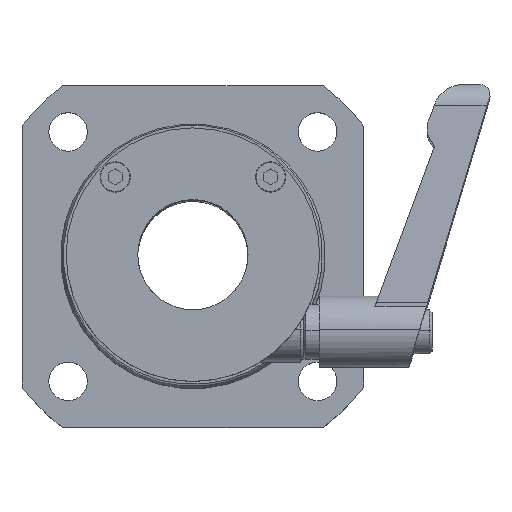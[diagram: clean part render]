
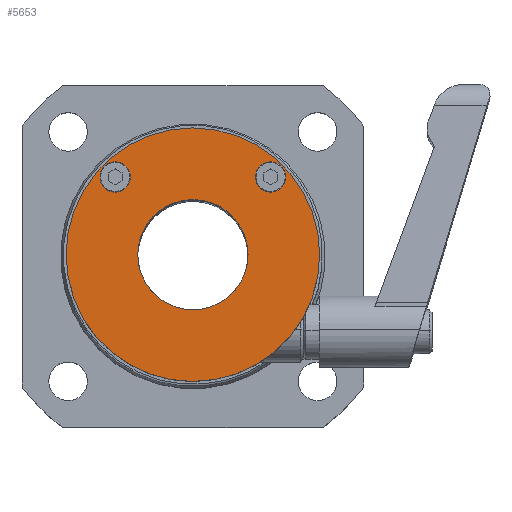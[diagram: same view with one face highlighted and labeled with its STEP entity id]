
A CAD part, top view. The second image highlights one B-rep face of the part: STEP entity #5653.
In plain terms, the highlighted planar face has unit normal (0, 0, 1).
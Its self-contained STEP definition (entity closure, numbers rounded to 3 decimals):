
#347 = AXIS2_PLACEMENT_3D ( 'NONE', #9853, #3593, #9703 ) ;
#446 = ORIENTED_EDGE ( 'NONE', *, *, #6869, .F. ) ;
#681 = EDGE_CURVE ( 'NONE', #3977, #999, #2834, .T. ) ;
#684 = DIRECTION ( 'NONE',  ( 1., 0., 0. ) ) ;
#999 = VERTEX_POINT ( 'NONE', #1239 ) ;
#1031 = AXIS2_PLACEMENT_3D ( 'NONE', #2242, #1538, #8480 ) ;
#1097 = CARTESIAN_POINT ( 'NONE',  ( -15.436, 21.331, 52.89 ) ) ;
#1106 = DIRECTION ( 'NONE',  ( 1., 0., 0. ) ) ;
#1164 = AXIS2_PLACEMENT_3D ( 'NONE', #2691, #7217, #5694 ) ;
#1173 = PLANE ( 'NONE',  #6323 ) ;
#1198 = CARTESIAN_POINT ( 'NONE',  ( 1.414, 7.231, 52.89 ) ) ;
#1239 = CARTESIAN_POINT ( 'NONE',  ( 1.414, 17.231, 52.89 ) ) ;
#1520 = AXIS2_PLACEMENT_3D ( 'NONE', #4058, #8017, #7106 ) ;
#1538 = DIRECTION ( 'NONE',  ( 0., 0., 1. ) ) ;
#1657 = EDGE_LOOP ( 'NONE', ( #9170, #3443 ) ) ;
#1973 = FACE_BOUND ( 'NONE', #4620, .T. ) ;
#1982 = CIRCLE ( 'NONE', #3426, 2.75 ) ;
#2019 = FACE_OUTER_BOUND ( 'NONE', #5997, .T. ) ;
#2242 = CARTESIAN_POINT ( 'NONE',  ( 1.414, 7.231, 52.89 ) ) ;
#2318 = DIRECTION ( 'NONE',  ( 0., 0., 1. ) ) ;
#2544 = AXIS2_PLACEMENT_3D ( 'NONE', #1198, #7312, #5048 ) ;
#2644 = CIRCLE ( 'NONE', #5976, 2.75 ) ;
#2691 = CARTESIAN_POINT ( 'NONE',  ( -12.686, 21.331, 52.89 ) ) ;
#2720 = DIRECTION ( 'NONE',  ( 0., -1., 0. ) ) ;
#2748 = EDGE_CURVE ( 'NONE', #9335, #3961, #1982, .T. ) ;
#2834 = CIRCLE ( 'NONE', #2544, 10. ) ;
#3048 = CARTESIAN_POINT ( 'NONE',  ( 12.764, 21.331, 52.89 ) ) ;
#3426 = AXIS2_PLACEMENT_3D ( 'NONE', #6175, #7756, #684 ) ;
#3443 = ORIENTED_EDGE ( 'NONE', *, *, #681, .F. ) ;
#3593 = DIRECTION ( 'NONE',  ( 0., 0., 1. ) ) ;
#3829 = ORIENTED_EDGE ( 'NONE', *, *, #2748, .F. ) ;
#3846 = CIRCLE ( 'NONE', #347, 23. ) ;
#3887 = CIRCLE ( 'NONE', #1031, 23. ) ;
#3925 = VERTEX_POINT ( 'NONE', #8647 ) ;
#3936 = CIRCLE ( 'NONE', #6336, 2.75 ) ;
#3961 = VERTEX_POINT ( 'NONE', #1097 ) ;
#3977 = VERTEX_POINT ( 'NONE', #4164 ) ;
#4058 = CARTESIAN_POINT ( 'NONE',  ( 1.414, 7.231, 52.89 ) ) ;
#4164 = CARTESIAN_POINT ( 'NONE',  ( 1.414, -2.769, 52.89 ) ) ;
#4620 = EDGE_LOOP ( 'NONE', ( #446, #5597 ) ) ;
#4812 = EDGE_CURVE ( 'NONE', #6663, #8374, #3887, .T. ) ;
#5048 = DIRECTION ( 'NONE',  ( 0., -1., 0. ) ) ;
#5165 = DIRECTION ( 'NONE',  ( 1., 0., 0. ) ) ;
#5597 = ORIENTED_EDGE ( 'NONE', *, *, #5665, .F. ) ;
#5653 = ADVANCED_FACE ( 'NONE', ( #1973, #6426, #2019, #5775 ), #1173, .T. ) ;
#5665 = EDGE_CURVE ( 'NONE', #3925, #9666, #2644, .T. ) ;
#5694 = DIRECTION ( 'NONE',  ( 1., 0., 0. ) ) ;
#5775 = FACE_BOUND ( 'NONE', #1657, .T. ) ;
#5976 = AXIS2_PLACEMENT_3D ( 'NONE', #7529, #2318, #5165 ) ;
#5997 = EDGE_LOOP ( 'NONE', ( #6061, #6206 ) ) ;
#6061 = ORIENTED_EDGE ( 'NONE', *, *, #8736, .T. ) ;
#6175 = CARTESIAN_POINT ( 'NONE',  ( -12.686, 21.331, 52.89 ) ) ;
#6206 = ORIENTED_EDGE ( 'NONE', *, *, #4812, .T. ) ;
#6323 = AXIS2_PLACEMENT_3D ( 'NONE', #7287, #6526, #2720 ) ;
#6336 = AXIS2_PLACEMENT_3D ( 'NONE', #8889, #8132, #1106 ) ;
#6426 = FACE_BOUND ( 'NONE', #8444, .T. ) ;
#6437 = EDGE_CURVE ( 'NONE', #999, #3977, #8591, .T. ) ;
#6462 = CARTESIAN_POINT ( 'NONE',  ( 1.414, -15.769, 52.89 ) ) ;
#6526 = DIRECTION ( 'NONE',  ( 0., 0., 1. ) ) ;
#6663 = VERTEX_POINT ( 'NONE', #6462 ) ;
#6869 = EDGE_CURVE ( 'NONE', #9666, #3925, #3936, .T. ) ;
#7106 = DIRECTION ( 'NONE',  ( 0., -1., 0. ) ) ;
#7217 = DIRECTION ( 'NONE',  ( 0., 0., 1. ) ) ;
#7287 = CARTESIAN_POINT ( 'NONE',  ( 1.414, 7.231, 52.89 ) ) ;
#7312 = DIRECTION ( 'NONE',  ( 0., 0., 1. ) ) ;
#7529 = CARTESIAN_POINT ( 'NONE',  ( 15.514, 21.331, 52.89 ) ) ;
#7756 = DIRECTION ( 'NONE',  ( 0., 0., 1. ) ) ;
#7836 = CARTESIAN_POINT ( 'NONE',  ( -9.936, 21.331, 52.89 ) ) ;
#8017 = DIRECTION ( 'NONE',  ( 0., 0., 1. ) ) ;
#8132 = DIRECTION ( 'NONE',  ( 0., 0., 1. ) ) ;
#8374 = VERTEX_POINT ( 'NONE', #8671 ) ;
#8444 = EDGE_LOOP ( 'NONE', ( #9653, #3829 ) ) ;
#8480 = DIRECTION ( 'NONE',  ( 0., -1., 0. ) ) ;
#8591 = CIRCLE ( 'NONE', #1520, 10. ) ;
#8647 = CARTESIAN_POINT ( 'NONE',  ( 18.264, 21.331, 52.89 ) ) ;
#8671 = CARTESIAN_POINT ( 'NONE',  ( 1.414, 30.231, 52.89 ) ) ;
#8716 = CIRCLE ( 'NONE', #1164, 2.75 ) ;
#8736 = EDGE_CURVE ( 'NONE', #8374, #6663, #3846, .T. ) ;
#8889 = CARTESIAN_POINT ( 'NONE',  ( 15.514, 21.331, 52.89 ) ) ;
#9170 = ORIENTED_EDGE ( 'NONE', *, *, #6437, .F. ) ;
#9335 = VERTEX_POINT ( 'NONE', #7836 ) ;
#9653 = ORIENTED_EDGE ( 'NONE', *, *, #9714, .F. ) ;
#9666 = VERTEX_POINT ( 'NONE', #3048 ) ;
#9703 = DIRECTION ( 'NONE',  ( 0., -1., 0. ) ) ;
#9714 = EDGE_CURVE ( 'NONE', #3961, #9335, #8716, .T. ) ;
#9853 = CARTESIAN_POINT ( 'NONE',  ( 1.414, 7.231, 52.89 ) ) ;
